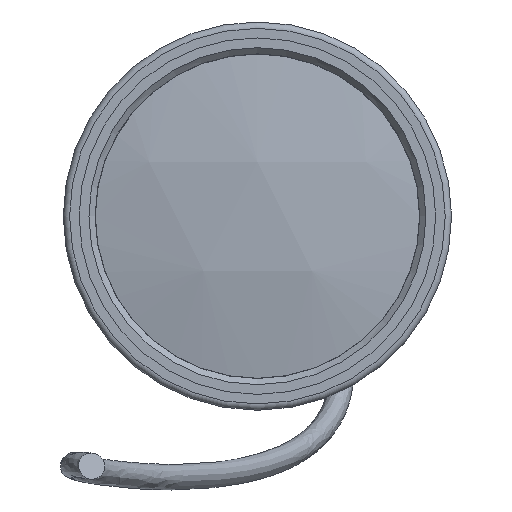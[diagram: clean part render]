
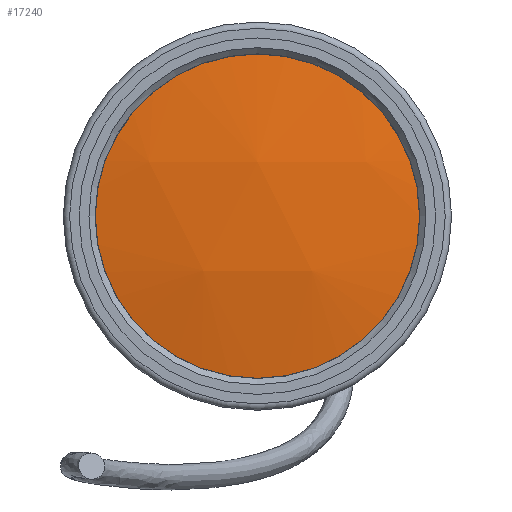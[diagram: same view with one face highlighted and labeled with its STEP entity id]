
A CAD part, front view. The second image highlights one B-rep face of the part: STEP entity #17240.
In plain terms, the highlighted spherical face has radius 124 mm.
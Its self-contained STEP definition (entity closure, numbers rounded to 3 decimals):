
#19=SPHERICAL_SURFACE('',#18379,124.);
#1151=FACE_OUTER_BOUND('',#2089,.T.);
#2089=EDGE_LOOP('',(#11837,#11838));
#6343=CIRCLE('',#18377,25.5);
#6344=CIRCLE('',#18378,25.5);
#7117=VERTEX_POINT('',#36599);
#7118=VERTEX_POINT('',#36600);
#8908=EDGE_CURVE('',#7117,#7118,#6343,.T.);
#8910=EDGE_CURVE('',#7118,#7117,#6344,.T.);
#11837=ORIENTED_EDGE('',*,*,#8908,.F.);
#11838=ORIENTED_EDGE('',*,*,#8910,.F.);
#17240=ADVANCED_FACE('',(#1151),#19,.T.);
#18377=AXIS2_PLACEMENT_3D('',#36601,#20580,#20581);
#18378=AXIS2_PLACEMENT_3D('',#36603,#20583,#20584);
#18379=AXIS2_PLACEMENT_3D('',#36604,#20585,#20586);
#20580=DIRECTION('center_axis',(0.,1.,0.));
#20581=DIRECTION('ref_axis',(0.,0.,
-1.));
#20583=DIRECTION('center_axis',(0.,1.,0.));
#20584=DIRECTION('ref_axis',(0.,0.,
-1.));
#20585=DIRECTION('center_axis',(0.,0.,
-1.));
#20586=DIRECTION('ref_axis',(0.,-1.,0.));
#36599=CARTESIAN_POINT('',(-40.002,-95.29,14.493));
#36600=CARTESIAN_POINT('',(10.998,-95.29,14.502));
#36601=CARTESIAN_POINT('Origin',(-14.502,-95.29,14.498));
#36603=CARTESIAN_POINT('Origin',(-14.502,-95.29,14.498));
#36604=CARTESIAN_POINT('Origin',(-14.502,26.06,14.498));
